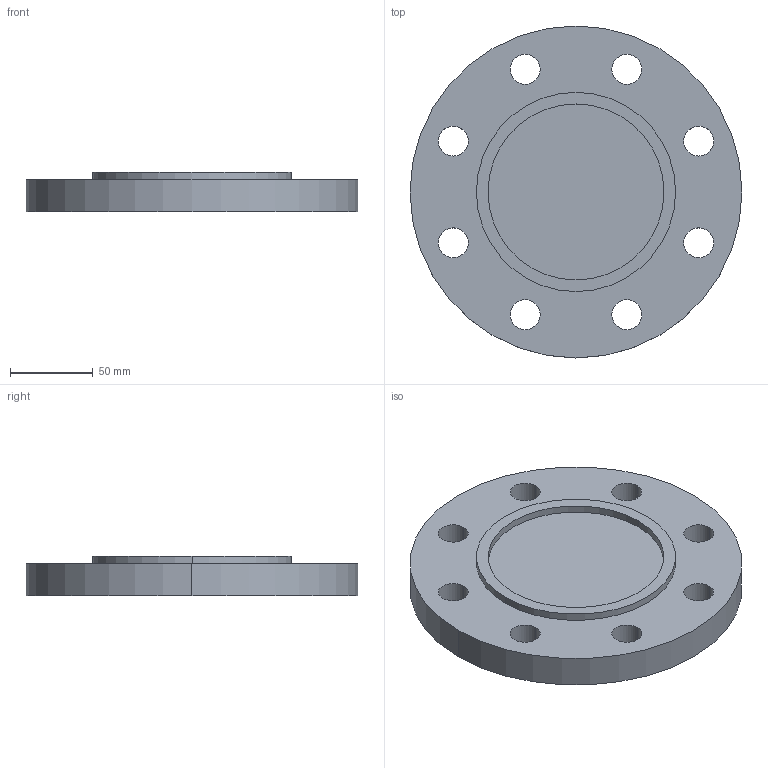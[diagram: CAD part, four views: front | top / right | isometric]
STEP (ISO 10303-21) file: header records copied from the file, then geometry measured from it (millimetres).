
FILE_DESCRIPTION (( 'STEP AP214' ), '1' );
FILE_NAME ('PN40 DN80 Type 05 - Type C Face.STEP', '2019-01-01T19:44:52', ( '' ), ( '' ), 'SwSTEP 2.0', 'SolidWorks 2019', '' );
FILE_SCHEMA (( 'AUTOMOTIVE_DESIGN' ));
Length unit declared in the file: millimetre
Products named in the file (1): PN40 DN80 Type 05 - Type C Face
Bounding box: 200 x 200 x 24 mm (x, y, z)
Volume: 584095.9 mm3; surface area: 83029.2 mm2
Topology: 1 solids, 1 shells, 26 faces, 66 edges, 44 vertices
Faces by surface type: cylinder 22, plane 4
Entity records: 880 total; most frequent: DIRECTION 164, CARTESIAN_POINT 137, ORIENTED_EDGE 132, AXIS2_PLACEMENT_3D 71, EDGE_CURVE 66, CIRCLE 44, VERTEX_POINT 44, EDGE_LOOP 44
